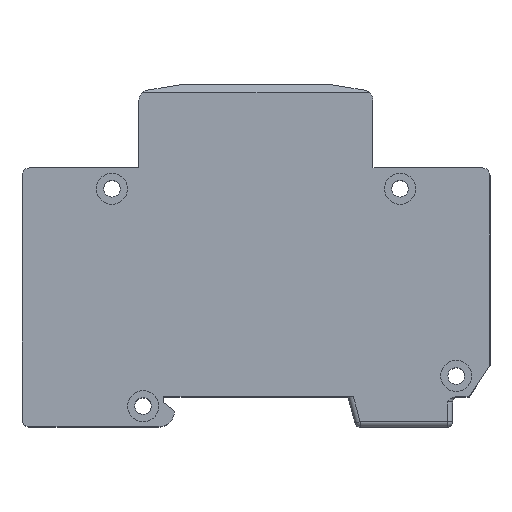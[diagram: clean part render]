
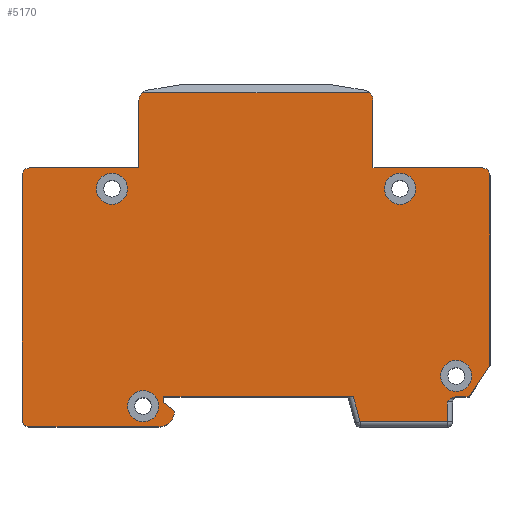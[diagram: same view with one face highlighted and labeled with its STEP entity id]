
A CAD part, top view. The second image highlights one B-rep face of the part: STEP entity #5170.
In plain terms, the highlighted planar face has unit normal (0, 0, 1).
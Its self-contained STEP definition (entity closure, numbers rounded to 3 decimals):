
#59=B_SPLINE_CURVE_WITH_KNOTS('',3,(#8359,#8360,#8361,#8362,#8363,#8364),
 .UNSPECIFIED.,.F.,.F.,(4,2,4),(0.506,0.582,0.7),
 .UNSPECIFIED.);
#84=FACE_BOUND('',#771,.T.);
#85=FACE_BOUND('',#772,.T.);
#86=FACE_BOUND('',#773,.T.);
#87=FACE_BOUND('',#774,.T.);
#199=CIRCLE('',#5453,1.5);
#201=CIRCLE('',#5484,1.5);
#203=CIRCLE('',#5490,3.);
#213=CIRCLE('',#5548,1.5);
#240=CIRCLE('',#5592,2.);
#241=CIRCLE('',#5593,2.);
#242=CIRCLE('',#5594,3.);
#243=CIRCLE('',#5595,3.);
#244=CIRCLE('',#5596,3.);
#245=CIRCLE('',#5597,3.);
#246=CIRCLE('',#5598,3.);
#247=CIRCLE('',#5599,3.);
#248=CIRCLE('',#5600,3.);
#249=CIRCLE('',#5601,3.);
#492=FACE_OUTER_BOUND('',#770,.T.);
#770=EDGE_LOOP('',(#4253,#4254,#4255,#4256,#4257,#4258,#4259,#4260,#4261,
#4262,#4263,#4264,#4265,#4266,#4267,#4268,#4269,#4270,#4271,#4272,#4273,
#4274,#4275));
#771=EDGE_LOOP('',(#4276,#4277));
#772=EDGE_LOOP('',(#4278,#4279));
#773=EDGE_LOOP('',(#4280,#4281));
#774=EDGE_LOOP('',(#4282,#4283));
#1173=LINE('',#7904,#1743);
#1232=LINE('',#8021,#1802);
#1250=LINE('',#8058,#1820);
#1256=LINE('',#8074,#1826);
#1260=LINE('',#8082,#1830);
#1264=LINE('',#8094,#1834);
#1286=LINE('',#8153,#1856);
#1290=LINE('',#8162,#1860);
#1342=LINE('',#8262,#1912);
#1348=LINE('',#8280,#1918);
#1353=LINE('',#8345,#1923);
#1354=LINE('',#8349,#1924);
#1355=LINE('',#8352,#1925);
#1356=LINE('',#8354,#1926);
#1357=LINE('',#8356,#1927);
#1358=LINE('',#8358,#1928);
#1743=VECTOR('',#6298,10.);
#1802=VECTOR('',#6409,10.);
#1820=VECTOR('',#6449,10.);
#1826=VECTOR('',#6467,10.);
#1830=VECTOR('',#6475,10.);
#1834=VECTOR('',#6487,10.);
#1856=VECTOR('',#6551,10.);
#1860=VECTOR('',#6561,10.);
#1912=VECTOR('',#6657,10.);
#1918=VECTOR('',#6679,10.);
#1923=VECTOR('',#6762,10.);
#1924=VECTOR('',#6765,10.);
#1925=VECTOR('',#6768,10.);
#1926=VECTOR('',#6769,10.);
#1927=VECTOR('',#6770,10.);
#1928=VECTOR('',#6771,10.);
#2275=VERTEX_POINT('',#7901);
#2276=VERTEX_POINT('',#7903);
#2278=VERTEX_POINT('',#7911);
#2308=VERTEX_POINT('',#8019);
#2314=VERTEX_POINT('',#8048);
#2316=VERTEX_POINT('',#8056);
#2318=VERTEX_POINT('',#8064);
#2320=VERTEX_POINT('',#8072);
#2322=VERTEX_POINT('',#8080);
#2326=VERTEX_POINT('',#8092);
#2341=VERTEX_POINT('',#8150);
#2342=VERTEX_POINT('',#8152);
#2344=VERTEX_POINT('',#8160);
#2370=VERTEX_POINT('',#8260);
#2372=VERTEX_POINT('',#8268);
#2374=VERTEX_POINT('',#8278);
#2395=VERTEX_POINT('',#8344);
#2396=VERTEX_POINT('',#8346);
#2397=VERTEX_POINT('',#8348);
#2398=VERTEX_POINT('',#8350);
#2399=VERTEX_POINT('',#8353);
#2400=VERTEX_POINT('',#8355);
#2401=VERTEX_POINT('',#8357);
#2402=VERTEX_POINT('',#8365);
#2403=VERTEX_POINT('',#8366);
#2404=VERTEX_POINT('',#8369);
#2405=VERTEX_POINT('',#8370);
#2406=VERTEX_POINT('',#8373);
#2407=VERTEX_POINT('',#8374);
#2408=VERTEX_POINT('',#8377);
#2409=VERTEX_POINT('',#8378);
#2847=EDGE_CURVE('',#2276,#2275,#1173,.T.);
#2852=EDGE_CURVE('',#2278,#2275,#199,.T.);
#2908=EDGE_CURVE('',#2278,#2308,#1232,.T.);
#2924=EDGE_CURVE('',#2314,#2308,#201,.T.);
#2928=EDGE_CURVE('',#2314,#2316,#1250,.T.);
#2932=EDGE_CURVE('',#2316,#2318,#203,.T.);
#2936=EDGE_CURVE('',#2318,#2320,#1256,.T.);
#2940=EDGE_CURVE('',#2320,#2322,#1260,.T.);
#2946=EDGE_CURVE('',#2322,#2326,#1264,.T.);
#2975=EDGE_CURVE('',#2341,#2342,#1286,.T.);
#2980=EDGE_CURVE('',#2341,#2344,#1290,.T.);
#3032=EDGE_CURVE('',#2344,#2370,#1342,.T.);
#3036=EDGE_CURVE('',#2372,#2370,#213,.T.);
#3042=EDGE_CURVE('',#2372,#2374,#1348,.T.);
#3071=EDGE_CURVE('',#2374,#2395,#1353,.T.);
#3072=EDGE_CURVE('',#2396,#2395,#240,.T.);
#3073=EDGE_CURVE('',#2397,#2396,#1354,.T.);
#3074=EDGE_CURVE('',#2398,#2397,#241,.T.);
#3075=EDGE_CURVE('',#2398,#2276,#1355,.T.);
#3076=EDGE_CURVE('',#2399,#2326,#1356,.T.);
#3077=EDGE_CURVE('',#2400,#2399,#1357,.T.);
#3078=EDGE_CURVE('',#2401,#2400,#1358,.T.);
#3079=EDGE_CURVE('',#2342,#2401,#59,.T.);
#3080=EDGE_CURVE('',#2402,#2403,#242,.T.);
#3081=EDGE_CURVE('',#2403,#2402,#243,.T.);
#3082=EDGE_CURVE('',#2404,#2405,#244,.T.);
#3083=EDGE_CURVE('',#2405,#2404,#245,.T.);
#3084=EDGE_CURVE('',#2406,#2407,#246,.T.);
#3085=EDGE_CURVE('',#2407,#2406,#247,.T.);
#3086=EDGE_CURVE('',#2408,#2409,#248,.T.);
#3087=EDGE_CURVE('',#2409,#2408,#249,.T.);
#4253=ORIENTED_EDGE('',*,*,#3036,.F.);
#4254=ORIENTED_EDGE('',*,*,#3042,.T.);
#4255=ORIENTED_EDGE('',*,*,#3071,.T.);
#4256=ORIENTED_EDGE('',*,*,#3072,.F.);
#4257=ORIENTED_EDGE('',*,*,#3073,.F.);
#4258=ORIENTED_EDGE('',*,*,#3074,.F.);
#4259=ORIENTED_EDGE('',*,*,#3075,.T.);
#4260=ORIENTED_EDGE('',*,*,#2847,.T.);
#4261=ORIENTED_EDGE('',*,*,#2852,.F.);
#4262=ORIENTED_EDGE('',*,*,#2908,.T.);
#4263=ORIENTED_EDGE('',*,*,#2924,.F.);
#4264=ORIENTED_EDGE('',*,*,#2928,.T.);
#4265=ORIENTED_EDGE('',*,*,#2932,.T.);
#4266=ORIENTED_EDGE('',*,*,#2936,.T.);
#4267=ORIENTED_EDGE('',*,*,#2940,.T.);
#4268=ORIENTED_EDGE('',*,*,#2946,.T.);
#4269=ORIENTED_EDGE('',*,*,#3076,.F.);
#4270=ORIENTED_EDGE('',*,*,#3077,.F.);
#4271=ORIENTED_EDGE('',*,*,#3078,.F.);
#4272=ORIENTED_EDGE('',*,*,#3079,.F.);
#4273=ORIENTED_EDGE('',*,*,#2975,.F.);
#4274=ORIENTED_EDGE('',*,*,#2980,.T.);
#4275=ORIENTED_EDGE('',*,*,#3032,.T.);
#4276=ORIENTED_EDGE('',*,*,#3080,.T.);
#4277=ORIENTED_EDGE('',*,*,#3081,.T.);
#4278=ORIENTED_EDGE('',*,*,#3082,.T.);
#4279=ORIENTED_EDGE('',*,*,#3083,.T.);
#4280=ORIENTED_EDGE('',*,*,#3084,.T.);
#4281=ORIENTED_EDGE('',*,*,#3085,.T.);
#4282=ORIENTED_EDGE('',*,*,#3086,.T.);
#4283=ORIENTED_EDGE('',*,*,#3087,.T.);
#4938=PLANE('',#5591);
#5170=ADVANCED_FACE('',(#492,#84,#85,#86,#87),#4938,.T.);
#5453=AXIS2_PLACEMENT_3D('',#7913,#6308,#6309);
#5484=AXIS2_PLACEMENT_3D('',#8050,#6440,#6441);
#5490=AXIS2_PLACEMENT_3D('',#8066,#6458,#6459);
#5548=AXIS2_PLACEMENT_3D('',#8270,#6666,#6667);
#5591=AXIS2_PLACEMENT_3D('',#8343,#6760,#6761);
#5592=AXIS2_PLACEMENT_3D('',#8347,#6763,#6764);
#5593=AXIS2_PLACEMENT_3D('',#8351,#6766,#6767);
#5594=AXIS2_PLACEMENT_3D('',#8367,#6772,#6773);
#5595=AXIS2_PLACEMENT_3D('',#8368,#6774,#6775);
#5596=AXIS2_PLACEMENT_3D('',#8371,#6776,#6777);
#5597=AXIS2_PLACEMENT_3D('',#8372,#6778,#6779);
#5598=AXIS2_PLACEMENT_3D('',#8375,#6780,#6781);
#5599=AXIS2_PLACEMENT_3D('',#8376,#6782,#6783);
#5600=AXIS2_PLACEMENT_3D('',#8379,#6784,#6785);
#5601=AXIS2_PLACEMENT_3D('',#8380,#6786,#6787);
#6298=DIRECTION('',(-1.,0.,0.));
#6308=DIRECTION('center_axis',(0.,0.,-1.));
#6309=DIRECTION('ref_axis',(-0.707,0.707,0.));
#6409=DIRECTION('',(0.,-1.,0.));
#6440=DIRECTION('center_axis',(0.,0.,-1.));
#6441=DIRECTION('ref_axis',(-0.707,-0.707,0.));
#6449=DIRECTION('',(1.,0.,0.));
#6458=DIRECTION('center_axis',(0.,0.,1.));
#6459=DIRECTION('ref_axis',(0.,-1.,0.));
#6467=DIRECTION('',(-0.781,0.625,0.));
#6475=DIRECTION('',(0.,1.,0.));
#6487=DIRECTION('',(1.,0.,0.));
#6551=DIRECTION('',(-1.,0.,0.));
#6561=DIRECTION('',(0.555,0.832,0.));
#6657=DIRECTION('',(0.,1.,0.));
#6666=DIRECTION('center_axis',(0.,0.,-1.));
#6667=DIRECTION('ref_axis',(0.707,0.707,0.));
#6679=DIRECTION('',(-1.,0.,0.));
#6760=DIRECTION('center_axis',(0.,0.,1.));
#6761=DIRECTION('ref_axis',(1.,0.,0.));
#6762=DIRECTION('',(0.,1.,0.));
#6763=DIRECTION('center_axis',(0.,0.,-1.));
#6764=DIRECTION('ref_axis',(0.762,0.648,0.));
#6765=DIRECTION('',(1.,0.,0.));
#6766=DIRECTION('center_axis',(0.,0.,-1.));
#6767=DIRECTION('ref_axis',(-0.762,0.648,0.));
#6768=DIRECTION('',(0.,-1.,0.));
#6769=DIRECTION('',(-0.259,0.966,0.));
#6770=DIRECTION('',(-1.,0.,0.));
#6771=DIRECTION('',(0.,-1.,0.));
#6772=DIRECTION('center_axis',(0.,0.,-1.));
#6773=DIRECTION('ref_axis',(1.,0.,0.));
#6774=DIRECTION('center_axis',(0.,0.,-1.));
#6775=DIRECTION('ref_axis',(1.,0.,0.));
#6776=DIRECTION('center_axis',(0.,0.,-1.));
#6777=DIRECTION('ref_axis',(1.,0.,0.));
#6778=DIRECTION('center_axis',(0.,0.,-1.));
#6779=DIRECTION('ref_axis',(1.,0.,0.));
#6780=DIRECTION('center_axis',(0.,0.,-1.));
#6781=DIRECTION('ref_axis',(1.,0.,0.));
#6782=DIRECTION('center_axis',(0.,0.,-1.));
#6783=DIRECTION('ref_axis',(1.,0.,0.));
#6784=DIRECTION('center_axis',(0.,0.,-1.));
#6785=DIRECTION('ref_axis',(1.,0.,0.));
#6786=DIRECTION('center_axis',(0.,0.,-1.));
#6787=DIRECTION('ref_axis',(1.,0.,0.));
#7901=CARTESIAN_POINT('',(-43.5,14.,17.5));
#7903=CARTESIAN_POINT('',(-22.5,14.,17.5));
#7904=CARTESIAN_POINT('',(-22.5,14.,17.5));
#7911=CARTESIAN_POINT('',(-45.,12.5,17.5));
#7913=CARTESIAN_POINT('Origin',(-43.5,12.5,17.5));
#8019=CARTESIAN_POINT('',(-45.,-34.3,17.5));
#8021=CARTESIAN_POINT('',(-45.,14.,17.5));
#8048=CARTESIAN_POINT('',(-43.5,-35.8,17.5));
#8050=CARTESIAN_POINT('Origin',(-43.5,-34.3,17.5));
#8056=CARTESIAN_POINT('',(-18.7,-35.8,17.5));
#8058=CARTESIAN_POINT('',(-45.,-35.8,17.5));
#8064=CARTESIAN_POINT('',(-15.7,-32.8,17.5));
#8066=CARTESIAN_POINT('Origin',(-18.7,-32.8,17.5));
#8072=CARTESIAN_POINT('',(-17.7,-31.2,17.5));
#8074=CARTESIAN_POINT('',(-15.7,-32.8,17.5));
#8080=CARTESIAN_POINT('',(-17.7,-30.,17.5));
#8082=CARTESIAN_POINT('',(-17.7,-31.2,17.5));
#8092=CARTESIAN_POINT('',(18.735,-30.,17.5));
#8094=CARTESIAN_POINT('',(-17.7,-30.,17.5));
#8150=CARTESIAN_POINT('',(41.,-30.,17.5));
#8152=CARTESIAN_POINT('',(38.532,-30.,17.5));
#8153=CARTESIAN_POINT('',(18.592,-30.,17.5));
#8160=CARTESIAN_POINT('',(45.,-24.,17.5));
#8162=CARTESIAN_POINT('',(41.,-30.,17.5));
#8260=CARTESIAN_POINT('',(45.,12.5,17.5));
#8262=CARTESIAN_POINT('',(45.,-24.,17.5));
#8268=CARTESIAN_POINT('',(43.5,14.,17.5));
#8270=CARTESIAN_POINT('Origin',(43.5,12.5,17.5));
#8278=CARTESIAN_POINT('',(22.5,14.,17.5));
#8280=CARTESIAN_POINT('',(45.,14.,17.5));
#8343=CARTESIAN_POINT('Origin',(-0.615,-5.122,17.5));
#8344=CARTESIAN_POINT('',(22.5,26.999,17.5));
#8345=CARTESIAN_POINT('',(22.5,14.,17.5));
#8346=CARTESIAN_POINT('',(21.821,28.5,17.5));
#8347=CARTESIAN_POINT('Origin',(20.5,26.999,17.5));
#8348=CARTESIAN_POINT('',(-21.821,28.5,17.5));
#8349=CARTESIAN_POINT('',(10.942,28.5,17.5));
#8350=CARTESIAN_POINT('',(-22.5,26.999,17.5));
#8351=CARTESIAN_POINT('Origin',(-20.5,26.999,17.5));
#8352=CARTESIAN_POINT('',(-22.5,30.,17.5));
#8353=CARTESIAN_POINT('',(20.021,-34.8,17.5));
#8354=CARTESIAN_POINT('',(14.943,-15.846,17.5));
#8355=CARTESIAN_POINT('',(36.8,-34.8,17.5));
#8356=CARTESIAN_POINT('',(9.319,-34.8,17.5));
#8357=CARTESIAN_POINT('',(36.8,-31.,17.5));
#8358=CARTESIAN_POINT('',(36.8,-20.461,17.5));
#8359=CARTESIAN_POINT('Ctrl Pts',(38.532,-30.,17.5));
#8360=CARTESIAN_POINT('Ctrl Pts',(38.277,-30.,17.5));
#8361=CARTESIAN_POINT('Ctrl Pts',(37.985,-30.09,17.5));
#8362=CARTESIAN_POINT('Ctrl Pts',(37.415,-30.396,17.5));
#8363=CARTESIAN_POINT('Ctrl Pts',(37.077,-30.723,17.5));
#8364=CARTESIAN_POINT('Ctrl Pts',(36.8,-31.,17.5));
#8365=CARTESIAN_POINT('',(41.5,-26.,17.5));
#8366=CARTESIAN_POINT('',(35.5,-26.,17.5));
#8367=CARTESIAN_POINT('Origin',(38.5,-26.,17.5));
#8368=CARTESIAN_POINT('Origin',(38.5,-26.,17.5));
#8369=CARTESIAN_POINT('',(30.7,10.,17.5));
#8370=CARTESIAN_POINT('',(24.7,10.,17.5));
#8371=CARTESIAN_POINT('Origin',(27.7,10.,17.5));
#8372=CARTESIAN_POINT('Origin',(27.7,10.,17.5));
#8373=CARTESIAN_POINT('',(-24.7,10.,17.5));
#8374=CARTESIAN_POINT('',(-30.7,10.,17.5));
#8375=CARTESIAN_POINT('Origin',(-27.7,10.,17.5));
#8376=CARTESIAN_POINT('Origin',(-27.7,10.,17.5));
#8377=CARTESIAN_POINT('',(-18.7,-31.8,17.5));
#8378=CARTESIAN_POINT('',(-24.7,-31.8,17.5));
#8379=CARTESIAN_POINT('Origin',(-21.7,-31.8,17.5));
#8380=CARTESIAN_POINT('Origin',(-21.7,-31.8,17.5));
